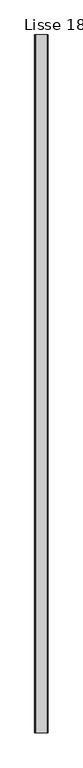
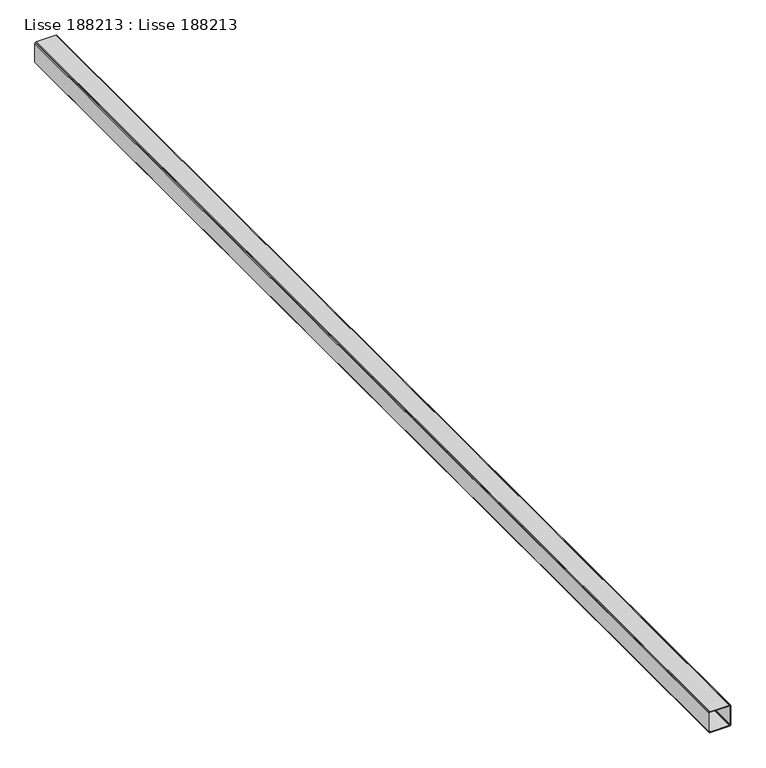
"""IFC4 building model written with IfcOpenShell, lengths in millimetres: beam geometry, Lisse 188213 : Lisse 188213."""

from ifc_helpers import new_model, si_unit, frame, origin, place, context, project, spatial, polyline, outline, extrude, source, transform, mapped, element, save


def lisse_188213_lisse_188213_08098e7e(model_context):
    return source(origin(), model_context, "Body", "SweptSolid", [
        extrude(outline(polyline([(4999.1961524, -177.0000001), (4997.0, -179.1961526), (4994.0, -180.0000001), (4906.0, -180.0000001), (4903.0, -179.1961526), (4900.8038476, -177.0000001), (4900.0, -174.0000001), (4900.0, -86.0000001), (4900.8038476, -83.0000001), (4903.0, -80.8038477), (4906.0, -80.0000001), (4994.0, -80.0000001), (4997.0, -80.8038477), (4999.1961524, -83.0000001), (5000.0, -86.0000001), (5000.0, -174.0000001), (4999.1961524, -177.0000001)]), holes=[polyline([(4904.5358984, -174.0000001), (4906.0, -175.4641017), (4908.0, -176.0000001), (4992.0, -176.0000001), (4994.0, -175.4641017), (4995.4641016, -174.0000001), (4996.0, -172.0000001), (4996.0, -88.0000001), (4995.4641016, -86.0000001), (4994.0, -84.5358985), (4992.0, -84.0000001), (4908.0, -84.0000001), (4906.0, -84.5358985), (4904.5358984, -86.0000001), (4904.0, -88.0000001), (4904.0, -172.0000001), (4904.5358984, -174.0000001)])]), frame((0.0, -39730.0, 0.0), z_axis=(0.0, 1.0, 0.0), x_axis=(0.0, 0.0, 1.0)), (0.0, 0.0, 1.0), 5245.0),
    ])


if __name__ == "__main__":
    model = new_model("IFC4")
    model_context = context("Model", 3, world=origin())
    ifc_project = project(units=[si_unit("LENGTHUNIT", "METRE", prefix="MILLI")], contexts=[model_context])
    site = spatial("IfcSite", under=ifc_project)
    building = spatial("IfcBuilding", under=site)
    placement = place(None, origin())
    lisse_188213_lisse_188213_shape = lisse_188213_lisse_188213_08098e7e(model_context)
    element("IfcBeam", 1, ObjectType="Lisse 188213 : Lisse 188213", at=placement, inside=building, context=model_context, shape_type="MappedRepresentation", body=[
        mapped(lisse_188213_lisse_188213_shape, transform((0.0, 0.0, 0.0), x_axis=(1.0, 0.0, 0.0), y_axis=(0.0, 1.0, 0.0), z_axis=(0.0, 0.0, 1.0))),
    ])
    save(model, "model.ifc")
